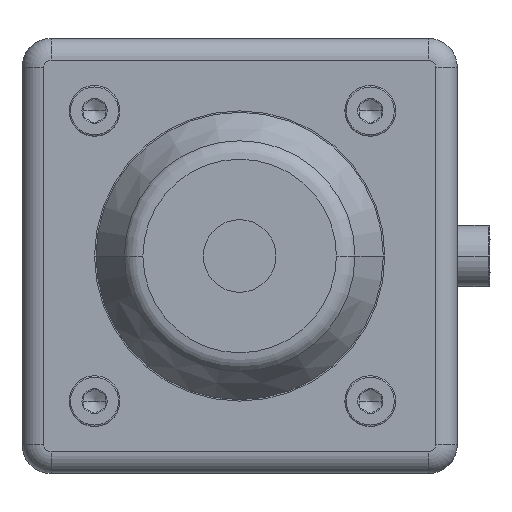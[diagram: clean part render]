
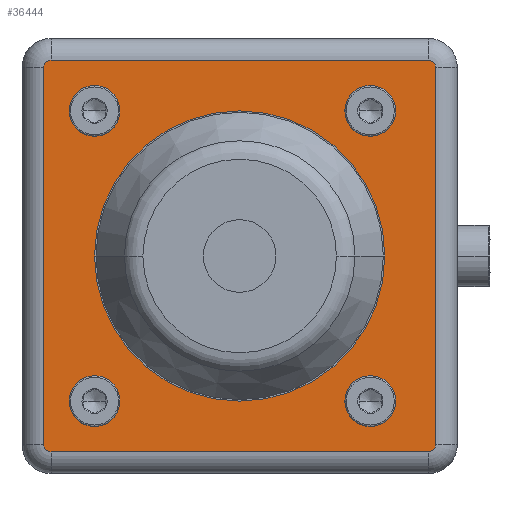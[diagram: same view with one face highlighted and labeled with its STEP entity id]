
A CAD part, left-side view. The second image highlights one B-rep face of the part: STEP entity #36444.
In plain terms, the highlighted planar face has unit normal (-1, 0, 0).
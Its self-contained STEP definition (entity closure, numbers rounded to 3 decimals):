
#994=FACE_BOUND('',#12035,.F.);
#995=FACE_BOUND('',#12036,.F.);
#996=FACE_BOUND('',#12037,.F.);
#997=FACE_BOUND('',#12038,.F.);
#998=FACE_BOUND('',#12039,.F.);
#3946=PLANE('',#79137);
#8116=FACE_OUTER_BOUND('',#12040,.F.);
#12035=EDGE_LOOP('',(#32373,#32374));
#12036=EDGE_LOOP('',(#32375,#32376));
#12037=EDGE_LOOP('',(#32377,#32378));
#12038=EDGE_LOOP('',(#32379,#32380));
#12039=EDGE_LOOP('',(#32381,#32382));
#12040=EDGE_LOOP('',(#32383,#32384,#32385,#32386,#32387,#32388,#32389,#32390));
#32373=ORIENTED_EDGE('',*,*,#66338,.T.);
#32374=ORIENTED_EDGE('',*,*,#66337,.T.);
#32375=ORIENTED_EDGE('',*,*,#66346,.T.);
#32376=ORIENTED_EDGE('',*,*,#66345,.T.);
#32377=ORIENTED_EDGE('',*,*,#66404,.T.);
#32378=ORIENTED_EDGE('',*,*,#66403,.T.);
#32379=ORIENTED_EDGE('',*,*,#66342,.T.);
#32380=ORIENTED_EDGE('',*,*,#66341,.T.);
#32381=ORIENTED_EDGE('',*,*,#66334,.T.);
#32382=ORIENTED_EDGE('',*,*,#66333,.T.);
#32383=ORIENTED_EDGE('',*,*,#66402,.F.);
#32384=ORIENTED_EDGE('',*,*,#66391,.F.);
#32385=ORIENTED_EDGE('',*,*,#66393,.F.);
#32386=ORIENTED_EDGE('',*,*,#66394,.F.);
#32387=ORIENTED_EDGE('',*,*,#66396,.F.);
#32388=ORIENTED_EDGE('',*,*,#66397,.F.);
#32389=ORIENTED_EDGE('',*,*,#66399,.F.);
#32390=ORIENTED_EDGE('',*,*,#66400,.F.);
#36444=ADVANCED_FACE('',(#994,#995,#996,#997,#998,#8116),#3946,.T.);
#45949=LINE('',#119985,#54883);
#45951=LINE('',#119988,#54885);
#45953=LINE('',#119991,#54887);
#45955=LINE('',#119994,#54889);
#54883=VECTOR('',#97985,52.);
#54885=VECTOR('',#97989,52.);
#54887=VECTOR('',#97993,52.);
#54889=VECTOR('',#97997,52.);
#56138=CIRCLE('',#79054,2.2);
#56139=CIRCLE('',#79055,2.2);
#56142=CIRCLE('',#79058,2.2);
#56143=CIRCLE('',#79059,2.2);
#56146=CIRCLE('',#79062,2.2);
#56147=CIRCLE('',#79063,2.2);
#56150=CIRCLE('',#79066,2.2);
#56151=CIRCLE('',#79067,2.2);
#56178=CIRCLE('',#79094,1.);
#56179=CIRCLE('',#79095,1.);
#56180=CIRCLE('',#79096,1.);
#56181=CIRCLE('',#79097,1.);
#56182=CIRCLE('',#79098,13.);
#56183=CIRCLE('',#79099,13.);
#66333=EDGE_CURVE('',#73313,#73312,#56138,.T.);
#66334=EDGE_CURVE('',#73312,#73313,#56139,.T.);
#66337=EDGE_CURVE('',#73309,#73308,#56142,.T.);
#66338=EDGE_CURVE('',#73308,#73309,#56143,.T.);
#66341=EDGE_CURVE('',#73305,#73304,#56146,.T.);
#66342=EDGE_CURVE('',#73304,#73305,#56147,.T.);
#66345=EDGE_CURVE('',#73301,#73300,#56150,.T.);
#66346=EDGE_CURVE('',#73300,#73301,#56151,.T.);
#66391=EDGE_CURVE('',#73251,#73250,#45949,.T.);
#66393=EDGE_CURVE('',#73249,#73251,#56178,.T.);
#66394=EDGE_CURVE('',#73248,#73249,#45951,.T.);
#66396=EDGE_CURVE('',#73247,#73248,#56179,.T.);
#66397=EDGE_CURVE('',#73246,#73247,#45953,.T.);
#66399=EDGE_CURVE('',#73245,#73246,#56180,.T.);
#66400=EDGE_CURVE('',#73244,#73245,#45955,.T.);
#66402=EDGE_CURVE('',#73250,#73244,#56181,.T.);
#66403=EDGE_CURVE('',#73243,#73242,#56182,.T.);
#66404=EDGE_CURVE('',#73242,#73243,#56183,.T.);
#73242=VERTEX_POINT('',#119855);
#73243=VERTEX_POINT('',#119856);
#73244=VERTEX_POINT('',#119857);
#73245=VERTEX_POINT('',#119858);
#73246=VERTEX_POINT('',#119859);
#73247=VERTEX_POINT('',#119860);
#73248=VERTEX_POINT('',#119861);
#73249=VERTEX_POINT('',#119862);
#73250=VERTEX_POINT('',#119863);
#73251=VERTEX_POINT('',#119864);
#73300=VERTEX_POINT('',#119913);
#73301=VERTEX_POINT('',#119914);
#73304=VERTEX_POINT('',#119917);
#73305=VERTEX_POINT('',#119918);
#73308=VERTEX_POINT('',#119921);
#73309=VERTEX_POINT('',#119922);
#73312=VERTEX_POINT('',#119925);
#73313=VERTEX_POINT('',#119926);
#79054=AXIS2_PLACEMENT_3D('',#119927,#97887,#97888);
#79055=AXIS2_PLACEMENT_3D('',#119928,#97889,#97890);
#79058=AXIS2_PLACEMENT_3D('',#119931,#97895,#97896);
#79059=AXIS2_PLACEMENT_3D('',#119932,#97897,#97898);
#79062=AXIS2_PLACEMENT_3D('',#119935,#97903,#97904);
#79063=AXIS2_PLACEMENT_3D('',#119936,#97905,#97906);
#79066=AXIS2_PLACEMENT_3D('',#119939,#97911,#97912);
#79067=AXIS2_PLACEMENT_3D('',#119940,#97913,#97914);
#79094=AXIS2_PLACEMENT_3D('',#119987,#97987,#97988);
#79095=AXIS2_PLACEMENT_3D('',#119990,#97991,#97992);
#79096=AXIS2_PLACEMENT_3D('',#119993,#97995,#97996);
#79097=AXIS2_PLACEMENT_3D('',#119996,#97999,#98000);
#79098=AXIS2_PLACEMENT_3D('',#119997,#98001,#98002);
#79099=AXIS2_PLACEMENT_3D('',#119998,#98003,#98004);
#79137=AXIS2_PLACEMENT_3D('',#120060,#98103,#98104);
#97887=DIRECTION('',(-1.,0.,0.));
#97888=DIRECTION('',(0.,-1.,0.));
#97889=DIRECTION('',(-1.,0.,0.));
#97890=DIRECTION('',(0.,1.,0.));
#97895=DIRECTION('',(-1.,0.,0.));
#97896=DIRECTION('',(0.,-1.,0.));
#97897=DIRECTION('',(-1.,0.,0.));
#97898=DIRECTION('',(0.,1.,0.));
#97903=DIRECTION('',(-1.,0.,0.));
#97904=DIRECTION('',(0.,-1.,0.));
#97905=DIRECTION('',(-1.,0.,0.));
#97906=DIRECTION('',(0.,1.,0.));
#97911=DIRECTION('',(-1.,0.,0.));
#97912=DIRECTION('',(0.,-1.,0.));
#97913=DIRECTION('',(-1.,0.,0.));
#97914=DIRECTION('',(0.,1.,0.));
#97985=DIRECTION('',(0.,0.,1.));
#97987=DIRECTION('',(-1.,0.,0.));
#97988=DIRECTION('',(0.,0.,-1.));
#97989=DIRECTION('',(0.,-1.,0.));
#97991=DIRECTION('',(-1.,0.,0.));
#97992=DIRECTION('',(0.,1.,0.));
#97993=DIRECTION('',(0.,0.,-1.));
#97995=DIRECTION('',(-1.,0.,0.));
#97996=DIRECTION('',(0.,0.,1.));
#97997=DIRECTION('',(0.,1.,0.));
#97999=DIRECTION('',(-1.,0.,0.));
#98000=DIRECTION('',(0.,-1.,0.));
#98001=DIRECTION('',(-1.,0.,0.));
#98002=DIRECTION('',(0.,-1.,0.));
#98003=DIRECTION('',(-1.,0.,0.));
#98004=DIRECTION('',(0.,1.,0.));
#98103=DIRECTION('',(-1.,0.,0.));
#98104=DIRECTION('',(0.,0.,-1.));
#119855=CARTESIAN_POINT('',(-225.6,13.,0.));
#119856=CARTESIAN_POINT('',(-225.6,-13.,0.));
#119857=CARTESIAN_POINT('',(-225.6,-26.,27.));
#119858=CARTESIAN_POINT('',(-225.6,26.,27.));
#119859=CARTESIAN_POINT('',(-225.6,27.,26.));
#119860=CARTESIAN_POINT('',(-225.6,27.,-26.));
#119861=CARTESIAN_POINT('',(-225.6,26.,-27.));
#119862=CARTESIAN_POINT('',(-225.6,-26.,-27.));
#119863=CARTESIAN_POINT('',(-225.6,-27.,26.));
#119864=CARTESIAN_POINT('',(-225.6,-27.,-26.));
#119913=CARTESIAN_POINT('',(-225.6,22.2,20.));
#119914=CARTESIAN_POINT('',(-225.6,17.8,20.));
#119917=CARTESIAN_POINT('',(-225.6,22.2,-20.));
#119918=CARTESIAN_POINT('',(-225.6,17.8,-20.));
#119921=CARTESIAN_POINT('',(-225.6,-15.8,-20.));
#119922=CARTESIAN_POINT('',(-225.6,-20.2,-20.));
#119925=CARTESIAN_POINT('',(-225.6,-15.8,20.));
#119926=CARTESIAN_POINT('',(-225.6,-20.2,20.));
#119927=CARTESIAN_POINT('',(-225.6,-18.,20.));
#119928=CARTESIAN_POINT('',(-225.6,-18.,20.));
#119931=CARTESIAN_POINT('',(-225.6,-18.,-20.));
#119932=CARTESIAN_POINT('',(-225.6,-18.,-20.));
#119935=CARTESIAN_POINT('',(-225.6,20.,-20.));
#119936=CARTESIAN_POINT('',(-225.6,20.,-20.));
#119939=CARTESIAN_POINT('',(-225.6,20.,20.));
#119940=CARTESIAN_POINT('',(-225.6,20.,20.));
#119985=CARTESIAN_POINT('',(-225.6,-27.,-26.));
#119987=CARTESIAN_POINT('',(-225.6,-26.,-26.));
#119988=CARTESIAN_POINT('',(-225.6,26.,-27.));
#119990=CARTESIAN_POINT('',(-225.6,26.,-26.));
#119991=CARTESIAN_POINT('',(-225.6,27.,26.));
#119993=CARTESIAN_POINT('',(-225.6,26.,26.));
#119994=CARTESIAN_POINT('',(-225.6,-26.,27.));
#119996=CARTESIAN_POINT('',(-225.6,-26.,26.));
#119997=CARTESIAN_POINT('',(-225.6,0.,0.));
#119998=CARTESIAN_POINT('',(-225.6,0.,0.));
#120060=CARTESIAN_POINT('',(-225.6,30.,30.));
